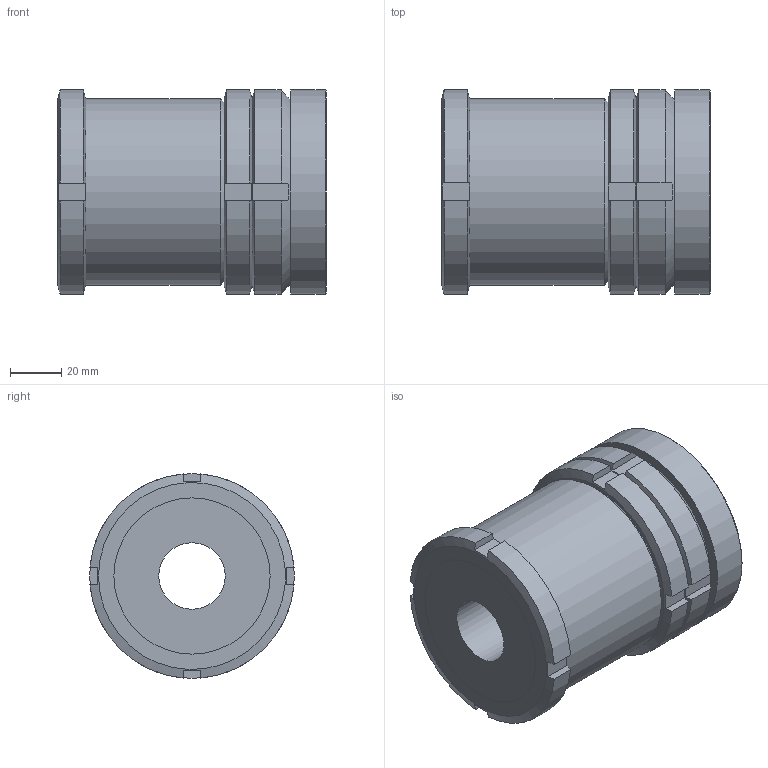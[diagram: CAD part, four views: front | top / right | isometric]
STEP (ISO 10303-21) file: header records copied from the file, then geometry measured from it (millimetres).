
FILE_DESCRIPTION( ( 'STEP AP203' ), '1' );
FILE_NAME( 'C:/Temp/Ganter_Step_05_03_2020/data/3_2/gn350_5/gn350_5_st/Levelling set GN 350.5-80-26-105-ST (0-0).stp', '2020-03-13T05:28:41', ( 'License CC BY-ND 4.0' ), ( 'CADENAS' ), ' ', 'PARTsolutions', ' ' );
FILE_SCHEMA( ( 'CONFIG_CONTROL_DESIGN' ) );
Length unit declared in the file: millimetre
Products named in the file (5): Levelling set GN 350.5-80-26-105-ST (0-0); _Levelling set GN 350.5-80-26-105-ST-G; _Levelling set GN 350.5-80-26-105-ST-K; _Levelling set GN 350.5-80-26-105-ST-P(0); _Levelling set GN 350.5-80-26-67-ST-KM
Assembly tree (4 placements, depth 2):
  Levelling set GN 350.5-80-26-105-ST (0-0)
    _Levelling set GN 350.5-80-26-105-ST-G
    _Levelling set GN 350.5-80-26-105-ST-K
    _Levelling set GN 350.5-80-26-105-ST-P(0)
    _Levelling set GN 350.5-80-26-67-ST-KM
Bounding box: 105 x 80 x 80 mm (x, y, z)
Volume: 412703.8 mm3; surface area: 88656.9 mm2
Topology: 4 solids, 4 shells, 85 faces, 211 edges, 140 vertices
Faces by surface type: plane 50, cylinder 24, cone 9, sphere 2
Full cylindrical faces by diameter (mm): 26 x1, 48 x1, 53.529 x1, 54.5 x1, 57.835 x1, 58.917 x1, 60 x2, 61 x2, 73 x1, 80 x1
Entity records: 2696 total; most frequent: CARTESIAN_POINT 698, DIRECTION 368, ORIENTED_EDGE 356, EDGE_CURVE 178, AXIS2_PLACEMENT_3D 160, VERTEX_POINT 130, EDGE_LOOP 122, FACE_OUTER_BOUND 99
